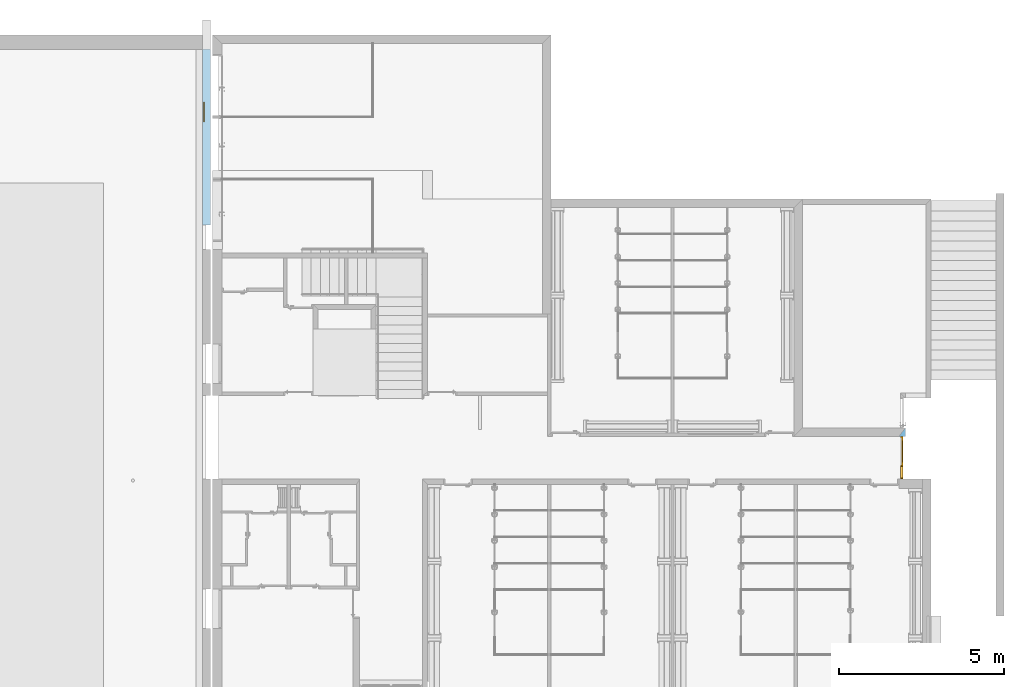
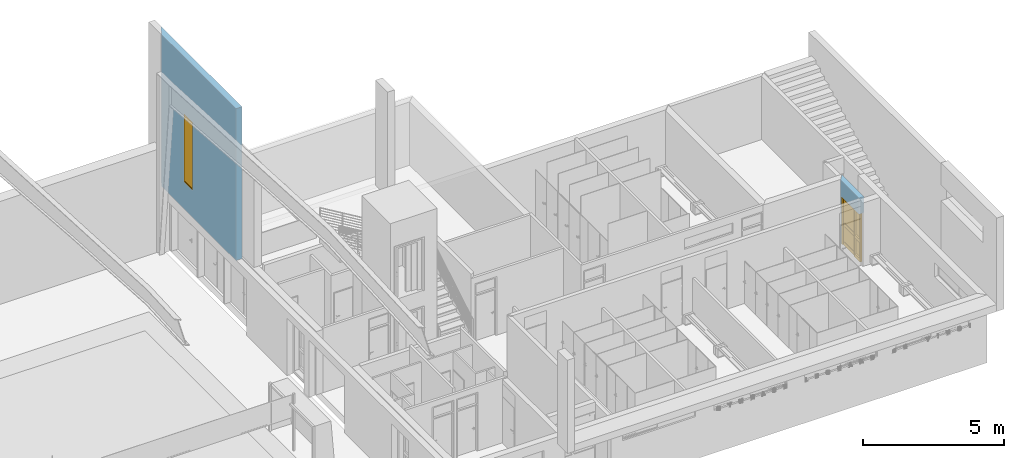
# One storey, part 40 of 45: 2 windows, 1 door, 3 openings, plus 2 elements that do not belong to this part.
"""IFC2X3 building model written with IfcOpenShell, lengths in metres."""

import ifcopenshell
import ifcopenshell.guid

model = None  # the IFC model being written
_history = None  # IfcOwnerHistory: only IFC2X3 demands one
_inside = {}  # id of a spatial element -> (the spatial element, [elements in it])
_under = {}  # id of a project, library or spatial element -> (it, [spatial elements below it])
_declared = {}  # id of a project -> (the project, [libraries it declares])
_typed = {}  # id of a type object -> (the type object, [elements of that type])
_made_of = {}  # id of a material, layer set ... -> (it, [elements and type objects made of it])


def new_model(schema):
    """Start an empty IFC model of exactly this schema.

    Asked for "IFC4X3", IfcOpenShell would pick the latest addendum, in which some entities
    have other attributes; the version numbers below select the first issue.
    IFC2X3 requires an IfcOwnerHistory on every rooted entity: one is made here for all.
    """
    global model, _history
    if schema == "IFC4X3":
        model = ifcopenshell.file(schema_version=(4, 3, 0, 0))
    else:
        model = ifcopenshell.file(schema=schema)
    _inside.clear()
    _under.clear()
    _declared.clear()
    _typed.clear()
    _made_of.clear()
    _history = None
    if model.schema == "IFC2X3":
        org = make("IfcOrganization", Name="unknown")
        user = make(
            "IfcPersonAndOrganization",
            ThePerson=make("IfcPerson", FamilyName="unknown"),
            TheOrganization=org,
        )
        app = make(
            "IfcApplication",
            ApplicationDeveloper=org,
            Version="unknown",
            ApplicationFullName="unknown",
            ApplicationIdentifier="unknown",
        )
        _history = make(
            "IfcOwnerHistory",
            OwningUser=user,
            OwningApplication=app,
            ChangeAction="ADDED",
            CreationDate=0,
        )
    return model


def make(cls, **values):
    """One entity of the class cls with the attributes given. An attribute that is None is left unset."""
    return model.create_entity(
        cls, **{name: value for name, value in values.items() if value is not None}
    )


def entity(cls, *values):
    """Any entity or typed value of the class cls, its attributes in the order of the schema. None: left unset."""
    e = model.create_entity(cls)
    for i, value in enumerate(values):
        if value is not None:
            e[i] = value
    return e


def rooted(cls, **values):
    """An entity with a GlobalId (a new one), such as an element, a storey or a relation."""
    return make(cls, GlobalId=ifcopenshell.guid.new(), OwnerHistory=_history, **values)


def si_unit(unit_type, name, prefix=None):
    """IfcSIUnit, for example si_unit("LENGTHUNIT", "METRE", prefix="MILLI")."""
    return make("IfcSIUnit", UnitType=unit_type, Prefix=prefix, Name=name)


def converted_unit(unit_type, name, factor, base, dimensions=None, offset=None):
    """IfcConversionBasedUnit, such as the inch: factor (a typed value) times the base unit."""
    return make(
        "IfcConversionBasedUnit"
        if offset is None
        else "IfcConversionBasedUnitWithOffset",
        ConversionOffset=offset,
        Dimensions=None
        if dimensions is None
        else entity("IfcDimensionalExponents", *dimensions),
        UnitType=unit_type,
        Name=name,
        ConversionFactor=make(
            "IfcMeasureWithUnit", ValueComponent=factor, UnitComponent=base
        ),
    )


def money_unit(currency):
    """IfcMonetaryUnit."""
    return make("IfcMonetaryUnit", Currency=currency)


def assignment(units):
    """IfcUnitAssignment: the units of a project."""
    return None if units is None else make("IfcUnitAssignment", Units=units)


def point(xyz):
    """IfcCartesianPoint."""
    return None if xyz is None else make("IfcCartesianPoint", Coordinates=xyz)


def direction(xyz):
    """IfcDirection."""
    return None if xyz is None else make("IfcDirection", DirectionRatios=xyz)


def frame(location, z_axis=None, x_axis=None):
    """IfcAxis2Placement3D, a coordinate frame: its origin and axes. An axis left out is left unset."""
    return make(
        "IfcAxis2Placement3D",
        Location=point(location),
        Axis=direction(z_axis),
        RefDirection=direction(x_axis),
    )


def origin_with_axes():
    """The frame at (0, 0, 0) with the z axis (0, 0, 1) and the x axis (1, 0, 0) written out."""
    return frame((0.0, 0.0, 0.0), z_axis=(0.0, 0.0, 1.0), x_axis=(1.0, 0.0, 0.0))


def place(relative_to, where):
    """IfcLocalPlacement: puts the frame where relative to a parent placement (None: the world)."""
    return make(
        "IfcLocalPlacement", PlacementRelTo=relative_to, RelativePlacement=where
    )


def context(
    kind, dimensions, precision=None, world=None, true_north=None, identifier=None
):
    """IfcGeometricRepresentationContext, for example the 3D "Model" context."""
    return make(
        "IfcGeometricRepresentationContext",
        ContextIdentifier=identifier,
        ContextType=kind,
        CoordinateSpaceDimension=dimensions,
        Precision=precision,
        WorldCoordinateSystem=world,
        TrueNorth=true_north,
    )


def subcontext(parent, identifier, kind, view, scale=None):
    """IfcGeometricRepresentationSubContext, for example "Body" below "Model"."""
    return make(
        "IfcGeometricRepresentationSubContext",
        ContextIdentifier=identifier,
        ContextType=kind,
        ParentContext=parent,
        TargetScale=scale,
        TargetView=view,
    )


def project(units=None, contexts=None):
    """IfcProject with its units and contexts."""
    return rooted(
        "IfcProject",
        Name="project",
        RepresentationContexts=contexts,
        UnitsInContext=assignment(units),
    )


def spatial(cls, under=None, at=None, **own):
    """A site, building, storey or space (cls), placed at a placement, below another one or the project."""
    s = rooted(cls, ObjectPlacement=at, **own)
    if under is not None:
        _under.setdefault(under.id(), (under, []))[1].append(s)
    return s


def polyline(points):
    """IfcPolyline through the points."""
    return make("IfcPolyline", Points=[point(p) for p in points])


def outline(outer, holes=None, kind="AREA"):
    """IfcArbitraryClosedProfileDef: a profile drawn as a closed curve; with holes, ...WithVoids."""
    if holes is None:
        return make("IfcArbitraryClosedProfileDef", ProfileType=kind, OuterCurve=outer)
    return make(
        "IfcArbitraryProfileDefWithVoids",
        ProfileType=kind,
        OuterCurve=outer,
        InnerCurves=holes,
    )


def extrude(swept, where, along, depth):
    """IfcExtrudedAreaSolid: the profile swept, set in the frame where, extruded along a direction by depth."""
    return make(
        "IfcExtrudedAreaSolid",
        SweptArea=swept,
        Position=where,
        ExtrudedDirection=direction(along),
        Depth=depth,
    )


def faces_of(points, faces, orient=None, outer=None):
    """IfcFace entities. A face is a list of loops; a loop is a list of indices into points, from 0.

    orient and outer hold one flag for each loop. By default every Orientation is true, the
    first loop of a face is its IfcFaceOuterBound and the others are IfcFaceBound.
    """
    made = []
    for i, loops in enumerate(faces):
        bounds = []
        for j, loop in enumerate(loops):
            is_outer = j == 0 if outer is None else outer[i][j]
            bounds.append(
                make(
                    "IfcFaceOuterBound" if is_outer else "IfcFaceBound",
                    Bound=make("IfcPolyLoop", Polygon=[points[k] for k in loop]),
                    Orientation=True if orient is None else orient[i][j],
                )
            )
        made.append(make("IfcFace", Bounds=bounds))
    return made


def open_shell(faces, orient=None, outer=None):
    """The faces of one IfcOpenShell. surface_model builds it on its shared points."""
    return ("IfcOpenShell", faces, orient, outer)


def faceted_brep(points, faces, orient=None, outer=None, voids=None):
    """IfcFacetedBrep: a solid bounded by flat faces; with voids (closed shells), ...WithVoids."""
    shared = [point(p) for p in points]
    hull = make("IfcClosedShell", CfsFaces=faces_of(shared, faces, orient, outer))
    if voids is None:
        return make("IfcFacetedBrep", Outer=hull)
    return make(
        "IfcFacetedBrepWithVoids",
        Outer=hull,
        Voids=[
            make(cls, CfsFaces=faces_of(shared, fs, o, b)) for cls, fs, o, b in voids
        ],
    )


def surface_model(cls, points, shells):
    """IfcFaceBasedSurfaceModel or IfcShellBasedSurfaceModel (cls): surfaces that need not close."""
    shared = [point(p) for p in points]
    made = [make(c, CfsFaces=faces_of(shared, fs, o, b)) for c, fs, o, b in shells]
    if cls == "IfcFaceBasedSurfaceModel":
        return make(cls, FbsmFaces=made)
    return make(cls, SbsmBoundary=made)


def shape(context_of_items, identifier, shape_type, items):
    """IfcShapeRepresentation: the items that make up one representation, for example the "Body"."""
    return make(
        "IfcShapeRepresentation",
        ContextOfItems=context_of_items,
        RepresentationIdentifier=identifier,
        RepresentationType=shape_type,
        Items=items,
    )


def material(Name=None, Category=None):
    """IfcMaterial."""
    return make("IfcMaterial", Name=Name, Category=Category)


def layer(
    of_material, thickness, ventilated=None, Name=None, Category=None, Priority=None
):
    """IfcMaterialLayer: one layer of a wall or slab, of a material (None: an air gap)."""
    return make(
        "IfcMaterialLayer",
        Material=of_material,
        LayerThickness=thickness,
        IsVentilated=ventilated,
        Name=Name,
        Category=Category,
        Priority=Priority,
    )


def layer_set(layers, Name=None):
    """IfcMaterialLayerSet."""
    return make("IfcMaterialLayerSet", MaterialLayers=layers, LayerSetName=Name)


def layer_usage(for_layer_set, set_direction, sense, offset, extent=None):
    """IfcMaterialLayerSetUsage: how a layer set lies in its element."""
    return make(
        "IfcMaterialLayerSetUsage",
        ForLayerSet=for_layer_set,
        LayerSetDirection=set_direction,
        DirectionSense=sense,
        OffsetFromReferenceLine=offset,
        ReferenceExtent=extent,
    )


def made_of(thing, what):
    """Note that an element or type object is made of a material, layer set ...; save() writes the relation."""
    if what is not None:
        _made_of.setdefault(what.id(), (what, []))[1].append(thing)
    return thing


def type_object(cls, material=None, **own):
    """A type object (cls), such as IfcWallType, which elements share."""
    return made_of(rooted(cls, **own), material)


def element(
    cls,
    number,
    at=None,
    inside=None,
    cuts=None,
    type_object=None,
    material=None,
    context=None,
    identifier="Body",
    shape_type=None,
    held_by="IfcProductDefinitionShape",
    body=None,
    shapes=None,
    **own,
):
    """One element of the class cls, such as IfcWall. Its Tag is "e" and its number.

    at: its placement. inside: the storey or other place that contains it. cuts: it is an
    opening in that element (IfcRelVoidsElement). A single representation is given by context,
    identifier, shape_type and body (its items); several are given by shapes. held_by: the class
    of the entity that holds the representations. save() writes the other relations.
    """
    e = rooted(cls, Tag="e%d" % number, ObjectPlacement=at, **own)
    if body is not None:
        shapes = [shape(context, identifier, shape_type, body)]
    if shapes is not None:
        e.Representation = make(held_by, Representations=shapes)
    if inside is not None:
        _inside.setdefault(inside.id(), (inside, []))[1].append(e)
    if cuts is not None:
        rooted(
            "IfcRelVoidsElement", RelatingBuildingElement=cuts, RelatedOpeningElement=e
        )
    if type_object is not None:
        _typed.setdefault(type_object.id(), (type_object, []))[1].append(e)
    return made_of(e, material)


def fill(opening, filler):
    """IfcRelFillsElement: the door or window that sits in an opening."""
    return rooted(
        "IfcRelFillsElement",
        RelatingOpeningElement=opening,
        RelatedBuildingElement=filler,
    )


def aggregate(whole, parts):
    """IfcRelAggregates: a whole, such as a stair, and the parts it consists of."""
    return rooted("IfcRelAggregates", RelatingObject=whole, RelatedObjects=parts)


def save(model, path):
    """Write the relations noted so far, then the file.

    IfcRelAggregates (storeys below a building ...), IfcRelContainedInSpatialStructure (elements
    in a storey), IfcRelDefinesByType, IfcRelAssociatesMaterial and IfcRelDeclares: one each for
    every whole, place, type object, material and project.
    """
    for whole, parts in _under.values():
        aggregate(whole, parts)
    for where, things in _inside.values():
        rooted(
            "IfcRelContainedInSpatialStructure",
            RelatedElements=things,
            RelatingStructure=where,
        )
    for kind, things in _typed.values():
        rooted("IfcRelDefinesByType", RelatedObjects=things, RelatingType=kind)
    for what, things in _made_of.values():
        rooted("IfcRelAssociatesMaterial", RelatedObjects=things, RelatingMaterial=what)
    for by, libraries in _declared.values():
        rooted("IfcRelDeclares", RelatingContext=by, RelatedDefinitions=libraries)
    model.write(path)


model = new_model("IFC2X3")

# Units and contexts
model_context = context("Model", 3, precision=1e-05, world=origin_with_axes(), true_north=direction((0.0, 1.0)))
body_context = subcontext(model_context, "Body", "Model", "MODEL_VIEW")
ifc_project = project(units=[si_unit("LENGTHUNIT", "METRE"), si_unit("AREAUNIT", "SQUARE_METRE"), si_unit("VOLUMEUNIT", "CUBIC_METRE"), converted_unit("PLANEANGLEUNIT", "DEGREE", entity("IfcPlaneAngleMeasure", 0.0174532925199), si_unit("PLANEANGLEUNIT", "RADIAN"), dimensions=[0, 0, 0, 0, 0, 0, 0]), si_unit("SOLIDANGLEUNIT", "STERADIAN"), money_unit("EUR"), converted_unit("TIMEUNIT", "Year", entity("IfcTimeMeasure", 31556926.0), si_unit("TIMEUNIT", "SECOND"), dimensions=[0, 0, 0, 0, 0, 0, 0]), si_unit("MASSUNIT", "GRAM"), si_unit("THERMODYNAMICTEMPERATUREUNIT", "DEGREE_CELSIUS"), si_unit("LUMINOUSINTENSITYUNIT", "LUMEN")], contexts=[model_context])

# Site, building, storey
site_placement = place(None, origin_with_axes())
site = spatial("IfcSite", under=ifc_project, at=site_placement, Name="Site", CompositionType="ELEMENT")
building_placement = place(site_placement, origin_with_axes())
building = spatial("IfcBuilding", under=site, at=building_placement, Name="Bâtiment", CompositionType="ELEMENT")
storey_placement = place(building_placement, origin_with_axes())
storey = spatial("IfcBuildingStorey", under=building, at=storey_placement, Name="NIVEAU BAS GYMNASE", CompositionType="ELEMENT", Elevation=0.0)

# Wall, openings, window, door
ifc_material_1 = material(Name="Hachure solide* 3992800808")
ifc_layer_1 = layer(ifc_material_1, 0.02, ventilated="UNKNOWN")
ifc_material_2 = material(Name="Empty Fill 290923149")
ifc_layer_2 = layer(ifc_material_2, 0.08, ventilated="UNKNOWN")
ifc_material_3 = material(Name="Hachure solide* 4022991772")
ifc_layer_3 = layer(ifc_material_3, 0.1, ventilated="UNKNOWN")
ifc_layer_set_1 = layer_set([ifc_layer_1, ifc_layer_2, ifc_layer_3], Name="•GYMN 10+10 0232896968")
ifc_layer_usage_1 = layer_usage(ifc_layer_set_1, "AXIS2", "POSITIVE", -0.2)
wall_type_1 = type_object("IfcWallType", Name="•GYMN 10+10 0232896968 200", PredefinedType="NOTDEFINED")
wall_1_placement = place(storey_placement, frame((66.4830112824, 14.568815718, 0.0), z_axis=(0.0, 0.0, 1.0), x_axis=(0.0, -1.0, 0.0)))
wall_1 = element("IfcWallStandardCase", 1, at=wall_1_placement, inside=storey, type_object=wall_type_1, material=ifc_layer_usage_1, Name="Mur-022", context=body_context, shape_type="SweptSolid", body=[
    extrude(outline(polyline([(0.0, -0.2), (1.3, -0.2), (1.3, 0.0), (-0.26, 0.0), (0.0, -0.2)])), origin_with_axes(), (0.0, 0.0, 1.0), 2.8),
])
opening_1_placement = place(wall_1_placement, frame((1.1, 0.0, 0.0), z_axis=(0.0, 0.0, 1.0), x_axis=(1.0, 0.0, 0.0)))
opening_1 = element("IfcOpeningElement", 2, at=opening_1_placement, cuts=wall_1, Name="Fen-029", context=body_context, shape_type="SweptSolid", body=[
    extrude(outline(polyline([(-0.2, 0.0), (-0.2, -2.1), (0.2, -2.1), (0.2, 0.0), (-0.2, 0.0)])), frame((0.0, -0.08, 0.0), z_axis=(0.0, 1.0, 0.0), x_axis=(1.0, 0.0, 0.0)), (0.0, 0.0, 1.0), 0.2),
    extrude(outline(polyline([(-0.2, 2.1), (-0.2, 0.0), (0.2, 0.0), (0.2, 2.1), (-0.2, 2.1)])), frame((0.0, -0.08, 0.0), z_axis=(0.0, -1.0, 0.0), x_axis=(1.0, 0.0, 0.0)), (0.0, 0.0, 1.0), 0.2),
])
opening_2_placement = place(wall_1_placement, frame((0.45, 0.0, 0.0), z_axis=(0.0, 0.0, 1.0), x_axis=(1.0, 0.0, 0.0)))
opening_2 = element("IfcOpeningElement", 3, at=opening_2_placement, cuts=wall_1, Name="Por-020", context=body_context, shape_type="SweptSolid", body=[
    extrude(outline(polyline([(0.45, 0.0), (-0.45, 0.0), (-0.45, -2.1), (0.45, -2.1), (0.45, 0.0)])), frame((0.0, -0.08, 0.0), z_axis=(0.0, -1.0, 0.0), x_axis=(-1.0, 0.0, 0.0)), (0.0, 0.0, -1.0), 0.2),
    extrude(outline(polyline([(0.45, 2.1), (-0.45, 2.1), (-0.45, 0.0), (0.45, 0.0), (0.45, 2.1)])), frame((0.0, -0.08, 0.0), z_axis=(0.0, 1.0, 0.0), x_axis=(-1.0, 0.0, 0.0)), (0.0, 0.0, -1.0), 0.2),
])
ifc_material_4 = material(Name="Sans Trame")
window_style_1 = type_object("IfcWindowStyle", Name="F Devanture 1 10", ConstructionType="NOTDEFINED", OperationType="USERDEFINED", ParameterTakesPrecedence=False, Sizeable=False)
window_1_placement = place(opening_1_placement, frame((-0.2, 0.0, 0.0), z_axis=(0.0, 0.0, 1.0), x_axis=(1.0, 0.0, 0.0)))
window_1 = element("IfcWindow", 4, at=window_1_placement, inside=storey, type_object=window_style_1, material=ifc_material_4, Name="Fen-029", OverallHeight=2.1, OverallWidth=0.4, context=body_context, shape_type="Brep", body=[
    faceted_brep([(0.02, -0.16, 0.825), (0.36, -0.16, 0.825), (0.36, -0.16, 0.975), (0.02, -0.16, 0.975), (0.02, -0.08, 0.825), (0.36, -0.08, 0.825), (0.36, -0.08, 0.975), (0.02, -0.08, 0.975)], [[[0, 1, 2, 3]], [[4, 5, 1, 0]], [[1, 5, 6, 2]], [[3, 2, 6, 7]], [[7, 4, 0, 3]], [[7, 6, 5, 4]]]),
    faceted_brep([(0.4, -0.08, 2.06), (0.4, -0.16, 2.06), (0.4, -0.16, 0.15), (0.4, -0.08, 0.15), (0.36, -0.08, 2.06), (0.36, -0.16, 2.06), (0.36, -0.16, 0.15), (0.36, -0.08, 0.15)], [[[0, 1, 2, 3]], [[4, 5, 1, 0]], [[1, 5, 6, 2]], [[3, 2, 6, 7]], [[0, 3, 7, 4]], [[7, 6, 5, 4]]]),
    faceted_brep([(0.0, -0.08, 0.15), (0.0, -0.16, 0.15), (0.0, -0.16, 2.06), (0.0, -0.08, 2.06), (0.02, -0.08, 0.15), (0.02, -0.16, 0.15), (0.02, -0.16, 2.06), (0.02, -0.08, 2.06)], [[[0, 1, 2, 3]], [[4, 5, 1, 0]], [[1, 5, 6, 2]], [[3, 2, 6, 7]], [[0, 3, 7, 4]], [[7, 6, 5, 4]]]),
    faceted_brep([(0.0, -0.08, 2.1), (0.0, -0.16, 2.1), (0.4, -0.16, 2.1), (0.4, -0.08, 2.1), (0.0, -0.08, 2.06), (0.0, -0.16, 2.06), (0.02, -0.16, 2.06), (0.36, -0.16, 2.06), (0.4, -0.16, 2.06), (0.4, -0.08, 2.06), (0.36, -0.08, 2.06), (0.02, -0.08, 2.06)], [[[0, 1, 2, 3]], [[4, 5, 1, 0]], [[1, 5, 6, 7, 8, 2]], [[3, 2, 8, 9]], [[0, 3, 9, 10, 11, 4]], [[11, 6, 5, 4]], [[10, 7, 6, 11]], [[9, 8, 7, 10]]]),
    faceted_brep([(0.0, -0.08, 0.15), (0.0, -0.16, 0.15), (0.02, -0.16, 0.15), (0.02, -0.08, 0.15), (0.0, -0.08, 0.0), (0.0, -0.16, 0.0), (0.4, -0.16, 0.0), (0.4, -0.16, 0.15), (0.36, -0.16, 0.15), (0.36, -0.08, 0.15), (0.4, -0.08, 0.15), (0.4, -0.08, 0.0)], [[[0, 1, 2, 3]], [[4, 5, 1, 0]], [[1, 5, 6, 7, 8, 2]], [[3, 2, 8, 9]], [[0, 3, 9, 10, 11, 4]], [[11, 6, 5, 4]], [[10, 7, 6, 11]], [[9, 8, 7, 10]]]),
    faceted_brep([(0.36, -0.09, 0.15), (0.36, -0.1, 0.15), (0.02, -0.1, 0.15), (0.02, -0.09, 0.15), (0.36, -0.09, 0.825), (0.36, -0.1, 0.825), (0.02, -0.1, 0.825), (0.02, -0.09, 0.825)], [[[0, 1, 2, 3]], [[4, 5, 1, 0]], [[1, 5, 6, 2]], [[3, 2, 6, 7]], [[0, 3, 7, 4]], [[7, 6, 5, 4]]]),
    faceted_brep([(0.36, -0.09, 0.975), (0.36, -0.1, 0.975), (0.02, -0.1, 0.975), (0.02, -0.09, 0.975), (0.36, -0.09, 2.06), (0.36, -0.1, 2.06), (0.02, -0.1, 2.06), (0.02, -0.09, 2.06)], [[[0, 1, 2, 3]], [[4, 5, 1, 0]], [[1, 5, 6, 2]], [[3, 2, 6, 7]], [[0, 3, 7, 4]], [[7, 6, 5, 4]]]),
])
fill(opening_1, window_1)
door_style = type_object("IfcDoorStyle", Name="P1 Devanture 1 10", ConstructionType="NOTDEFINED", OperationType="SINGLE_SWING_LEFT", ParameterTakesPrecedence=False, Sizeable=False)
door_placement = place(opening_2_placement, frame((-0.45, 0.0, 0.0), z_axis=(0.0, 0.0, 1.0), x_axis=(1.0, 0.0, 0.0)))
door = element("IfcDoor", 5, at=door_placement, inside=storey, type_object=door_style, material=ifc_material_4, Name="Por-020", OverallHeight=2.1, OverallWidth=0.9, context=body_context, shape_type="Brep", body=[
    faceted_brep([(0.9, -0.08, 2.06), (0.9, -0.16, 2.06), (0.9, -0.16, 0.0), (0.9, -0.08, 0.0), (0.88, -0.08, 2.06), (0.88, -0.16, 2.06), (0.88, -0.16, 0.0), (0.88, -0.08, 0.0)], [[[0, 1, 2, 3]], [[4, 5, 1, 0]], [[1, 5, 6, 2]], [[3, 2, 6, 7]], [[0, 3, 7, 4]], [[7, 6, 5, 4]]]),
    faceted_brep([(0.0, -0.08, 0.0), (0.0, -0.16, 0.0), (0.0, -0.16, 2.06), (0.0, -0.08, 2.06), (0.04, -0.08, 0.0), (0.04, -0.16, 0.0), (0.04, -0.16, 2.06), (0.04, -0.08, 2.06)], [[[0, 1, 2, 3]], [[4, 5, 1, 0]], [[1, 5, 6, 2]], [[3, 2, 6, 7]], [[0, 3, 7, 4]], [[7, 6, 5, 4]]]),
    faceted_brep([(0.0, -0.08, 2.1), (0.0, -0.16, 2.1), (0.9, -0.16, 2.1), (0.9, -0.08, 2.1), (0.0, -0.08, 2.06), (0.0, -0.16, 2.06), (0.04, -0.16, 2.06), (0.88, -0.16, 2.06), (0.9, -0.16, 2.06), (0.9, -0.08, 2.06), (0.88, -0.08, 2.06), (0.04, -0.08, 2.06)], [[[0, 1, 2, 3]], [[4, 5, 1, 0]], [[1, 5, 6, 7, 8, 2]], [[3, 2, 8, 9]], [[0, 3, 9, 10, 11, 4]], [[11, 6, 5, 4]], [[10, 7, 6, 11]], [[9, 8, 7, 10]]]),
    faceted_brep([(0.87, -0.12, 0.0), (0.87, -0.1454, 0.0), (0.87, -0.1454, 2.05), (0.87, -0.12, 2.05), (0.88, -0.12, 0.0), (0.88, -0.1454, 0.0), (0.88, -0.1454, 2.05), (0.88, -0.12, 2.05)], [[[0, 1, 2, 3]], [[4, 5, 1, 0]], [[1, 5, 6, 2]], [[3, 2, 6, 7]], [[0, 3, 7, 4]], [[7, 6, 5, 4]]]),
    faceted_brep([(0.04, -0.12, 0.0), (0.04, -0.1454, 0.0), (0.04, -0.1454, 2.05), (0.04, -0.12, 2.05), (0.05, -0.12, 0.0), (0.05, -0.1454, 0.0), (0.05, -0.1454, 2.05), (0.05, -0.12, 2.05)], [[[0, 1, 2, 3]], [[4, 5, 1, 0]], [[1, 5, 6, 2]], [[3, 2, 6, 7]], [[0, 3, 7, 4]], [[7, 6, 5, 4]]]),
    faceted_brep([(0.88, -0.12, 2.06), (0.88, -0.1454, 2.06), (0.88, -0.1454, 2.05), (0.88, -0.12, 2.05), (0.04, -0.12, 2.06), (0.04, -0.1454, 2.06), (0.04, -0.1454, 2.05), (0.05, -0.1454, 2.05), (0.87, -0.1454, 2.05), (0.87, -0.12, 2.05), (0.05, -0.12, 2.05), (0.04, -0.12, 2.05)], [[[0, 1, 2, 3]], [[4, 5, 1, 0]], [[1, 5, 6, 7, 8, 2]], [[3, 2, 8, 9]], [[0, 3, 9, 10, 11, 4]], [[11, 6, 5, 4]], [[10, 7, 6, 11]], [[9, 8, 7, 10]]]),
    faceted_brep([(0.12, -0.08, 0.15), (0.12, -0.08, 1.98), (0.12, -0.12, 1.98), (0.12, -0.12, 0.15), (0.04, -0.08, 0.15), (0.04, -0.08, 1.98), (0.04, -0.12, 1.98), (0.04, -0.12, 0.15)], [[[0, 1, 2, 3]], [[0, 4, 5, 1]], [[1, 5, 6, 2]], [[3, 2, 6, 7]], [[4, 0, 3, 7]], [[5, 4, 7, 6]]]),
    faceted_brep([(0.88, -0.08, 0.15), (0.88, -0.08, 1.98), (0.88, -0.12, 1.98), (0.88, -0.12, 0.15), (0.8, -0.08, 0.15), (0.8, -0.08, 1.98), (0.8, -0.12, 1.98), (0.8, -0.12, 0.15)], [[[0, 1, 2, 3]], [[0, 4, 5, 1]], [[1, 5, 6, 2]], [[3, 2, 6, 7]], [[4, 0, 3, 7]], [[5, 4, 7, 6]]]),
    faceted_brep([(0.88, -0.08, 0.0), (0.88, -0.08, 0.15), (0.88, -0.12, 0.15), (0.88, -0.12, 0.0), (0.04, -0.08, 0.0), (0.04, -0.08, 0.15), (0.12, -0.08, 0.15), (0.8, -0.08, 0.15), (0.8, -0.12, 0.15), (0.12, -0.12, 0.15), (0.04, -0.12, 0.15), (0.04, -0.12, 0.0)], [[[0, 1, 2, 3]], [[0, 4, 5, 6, 7, 1]], [[1, 7, 8, 2]], [[3, 2, 8, 9, 10, 11]], [[4, 0, 3, 11]], [[5, 4, 11, 10]], [[6, 5, 10, 9]], [[7, 6, 9, 8]]]),
    faceted_brep([(0.04, -0.08, 2.06), (0.04, -0.08, 1.98), (0.04, -0.12, 1.98), (0.04, -0.12, 2.06), (0.88, -0.08, 2.06), (0.88, -0.08, 1.98), (0.8, -0.08, 1.98), (0.12, -0.08, 1.98), (0.12, -0.12, 1.98), (0.8, -0.12, 1.98), (0.88, -0.12, 1.98), (0.88, -0.12, 2.06)], [[[0, 1, 2, 3]], [[0, 4, 5, 6, 7, 1]], [[1, 7, 8, 2]], [[3, 2, 8, 9, 10, 11]], [[4, 0, 3, 11]], [[5, 4, 11, 10]], [[6, 5, 10, 9]], [[7, 6, 9, 8]]]),
    faceted_brep([(0.8, -0.08, 0.825), (0.8, -0.08, 0.975), (0.8, -0.12, 0.975), (0.8, -0.12, 0.825), (0.12, -0.08, 0.825), (0.12, -0.08, 0.975), (0.12, -0.12, 0.975), (0.12, -0.12, 0.825)], [[[0, 1, 2, 3]], [[0, 4, 5, 1]], [[1, 5, 6, 2]], [[3, 2, 6, 7]], [[4, 0, 3, 7]], [[5, 4, 7, 6]]]),
    faceted_brep([(0.8, -0.095, 0.975), (0.8, -0.095, 1.98), (0.8, -0.105, 1.98), (0.8, -0.105, 0.975), (0.12, -0.095, 0.975), (0.12, -0.095, 1.98), (0.12, -0.105, 1.98), (0.12, -0.105, 0.975)], [[[0, 1, 2, 3]], [[0, 4, 5, 1]], [[1, 5, 6, 2]], [[3, 2, 6, 7]], [[4, 0, 3, 7]], [[5, 4, 7, 6]]]),
    faceted_brep([(0.8, -0.095, 0.15), (0.8, -0.095, 0.825), (0.8, -0.105, 0.825), (0.8, -0.105, 0.15), (0.12, -0.095, 0.15), (0.12, -0.095, 0.825), (0.12, -0.105, 0.825), (0.12, -0.105, 0.15)], [[[0, 1, 2, 3]], [[0, 4, 5, 1]], [[1, 5, 6, 2]], [[3, 2, 6, 7]], [[4, 0, 3, 7]], [[5, 4, 7, 6]]]),
])
fill(opening_2, door)

# Wall, opening, window
ifc_material_5 = material(Name="Hachure solide* 1842511997")
ifc_layer_4 = layer(ifc_material_5, 0.1, ventilated="UNKNOWN")
ifc_material_6 = material(Name="Isolation 347608549")
ifc_layer_5 = layer(ifc_material_6, 0.12, ventilated="UNKNOWN")
ifc_material_7 = material(Name="Hachure solide* 398427698")
ifc_layer_6 = layer(ifc_material_7, 0.02, ventilated="UNKNOWN")
ifc_layer_set_2 = layer_set([ifc_layer_4, ifc_layer_5, ifc_layer_6], Name="•GYMN PANNEAU 1 0232896968")
ifc_layer_usage_2 = layer_usage(ifc_layer_set_2, "AXIS2", "POSITIVE", -0.24)
wall_type_2 = type_object("IfcWallType", Name="•GYMN PANNEAU 1 0232896968 240", PredefinedType="NOTDEFINED")
wall_2_placement = place(storey_placement, frame((45.418457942, 26.2891158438, 2.8), z_axis=(0.0, 0.0, 1.0), x_axis=(0.0, -1.0, 0.0)))
wall_2 = element("IfcWallStandardCase", 6, at=wall_2_placement, inside=storey, type_object=wall_type_2, material=ifc_layer_usage_2, Name="Mur-003", context=body_context, shape_type="SweptSolid", body=[
    extrude(outline(polyline([(0.0, -0.24), (5.3071661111, -0.24), (5.3071661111, 0.0), (-0.45, 0.0), (0.0, -0.24)])), origin_with_axes(), (0.0, 0.0, 1.0), 6.58885386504),
])
opening_3_placement = place(wall_2_placement, frame((1.88862188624, 0.0, 1.15), z_axis=(0.0, 0.0, 1.0), x_axis=(1.0, 0.0, 0.0)))
opening_3 = element("IfcOpeningElement", 7, at=opening_3_placement, cuts=wall_2, Name="Fen-027", context=body_context, shape_type="SweptSolid", body=[
    extrude(outline(polyline([(0.303505, 0.0), (-0.303505, 0.0), (-0.303505, -2.974206), (0.303505, -2.974206), (0.303505, 0.0)])), frame((0.0, -0.18, 0.0), z_axis=(0.0, 1.0, 0.0), x_axis=(1.0, 0.0, 0.0)), (0.0, 0.0, 1.0), 0.42),
    extrude(outline(polyline([(0.303505, 2.974206), (-0.303505, 2.974206), (-0.303505, 0.0), (0.303505, 0.0), (0.303505, 2.974206)])), frame((0.0, -0.18, 0.0), z_axis=(0.0, -1.0, 0.0), x_axis=(1.0, 0.0, 0.0)), (0.0, 0.0, 1.0), 0.3),
])
window_style_2 = type_object("IfcWindowStyle", Name="Fen fixe vitrée 10", ConstructionType="NOTDEFINED", OperationType="SINGLE_PANEL", ParameterTakesPrecedence=False, Sizeable=False)
window_2_placement = place(opening_3_placement, frame((-0.303505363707, 0.0, 0.0), z_axis=(0.0, 0.0, 1.0), x_axis=(1.0, 0.0, 0.0)))
window_2 = element("IfcWindow", 8, at=window_2_placement, inside=storey, type_object=window_style_2, material=ifc_material_4, Name="Fen-027", OverallHeight=2.97421, OverallWidth=0.607011, context=body_context, shape_type="SurfaceModel", body=[
    faceted_brep([(0.567011, -0.18, 2.934205), (0.567011, -0.22, 2.934205), (0.607011, -0.22, 2.934205), (0.607011, -0.18, 2.934205), (0.567011, -0.18, 0.039999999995), (0.567011, -0.22, 0.039999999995), (0.607011, -0.22, 0.039999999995), (0.607011, -0.18, 0.039999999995)], [[[0, 1, 2, 3]], [[4, 5, 1, 0]], [[1, 5, 6, 2]], [[3, 2, 6, 7]], [[0, 3, 7, 4]], [[7, 6, 5, 4]]]),
    faceted_brep([(0.04, -0.18, 0.039999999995), (0.04, -0.22, 0.039999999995), (0.0, -0.22, 0.039999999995), (0.0, -0.18, 0.039999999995), (0.04, -0.18, 2.934205), (0.04, -0.22, 2.934205), (0.0, -0.22, 2.934205), (0.0, -0.18, 2.934205)], [[[0, 1, 2, 3]], [[4, 5, 1, 0]], [[1, 5, 6, 2]], [[3, 2, 6, 7]], [[0, 3, 7, 4]], [[7, 6, 5, 4]]]),
    faceted_brep([(0.567011, -0.18, 0.039999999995), (0.567011, -0.22, 0.039999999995), (0.607011, -0.22, 0.039999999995), (0.607011, -0.18, 0.039999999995), (0.04, -0.18, 0.039999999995), (0.04, -0.22, 0.039999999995), (0.0, -0.22, 0.039999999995), (0.0, -0.22, 0.0), (0.607011, -0.22, 0.0), (0.607011, -0.18, 0.0), (0.0, -0.18, 0.0), (0.0, -0.18, 0.039999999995)], [[[0, 1, 2, 3]], [[4, 5, 1, 0]], [[1, 5, 6, 7, 8, 2]], [[3, 2, 8, 9]], [[0, 3, 9, 10, 11, 4]], [[11, 6, 5, 4]], [[10, 7, 6, 11]], [[9, 8, 7, 10]]]),
    faceted_brep([(0.04, -0.18, 2.934205), (0.04, -0.22, 2.934205), (0.0, -0.22, 2.934205), (0.0, -0.18, 2.934205), (0.567011, -0.18, 2.934205), (0.567011, -0.22, 2.934205), (0.607011, -0.22, 2.934205), (0.607011, -0.22, 2.974205), (0.0, -0.22, 2.974205), (0.0, -0.18, 2.974205), (0.607011, -0.18, 2.974205), (0.607011, -0.18, 2.934205)], [[[0, 1, 2, 3]], [[4, 5, 1, 0]], [[1, 5, 6, 7, 8, 2]], [[3, 2, 8, 9]], [[0, 3, 9, 10, 11, 4]], [[11, 6, 5, 4]], [[10, 7, 6, 11]], [[9, 8, 7, 10]]]),
    surface_model("IfcShellBasedSurfaceModel", [(0.04, -0.19, 0.039999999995), (0.04, -0.19, 2.934205), (0.567011, -0.19, 2.934205), (0.567011, -0.19, 0.039999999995)], [open_shell([[[0, 1, 2, 3]]])]),
    surface_model("IfcShellBasedSurfaceModel", [(0.04, -0.21, 0.039999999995), (0.567011, -0.21, 0.039999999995), (0.567011, -0.21, 2.934205), (0.04, -0.21, 2.934205)], [open_shell([[[0, 1, 2, 3]]])]),
])
fill(opening_3, window_2)

save(model, "model.ifc")
